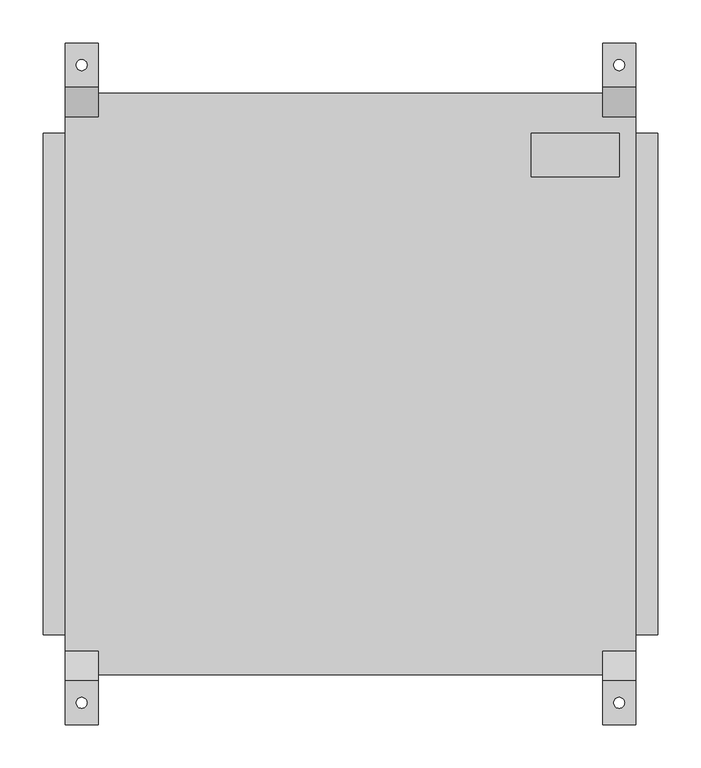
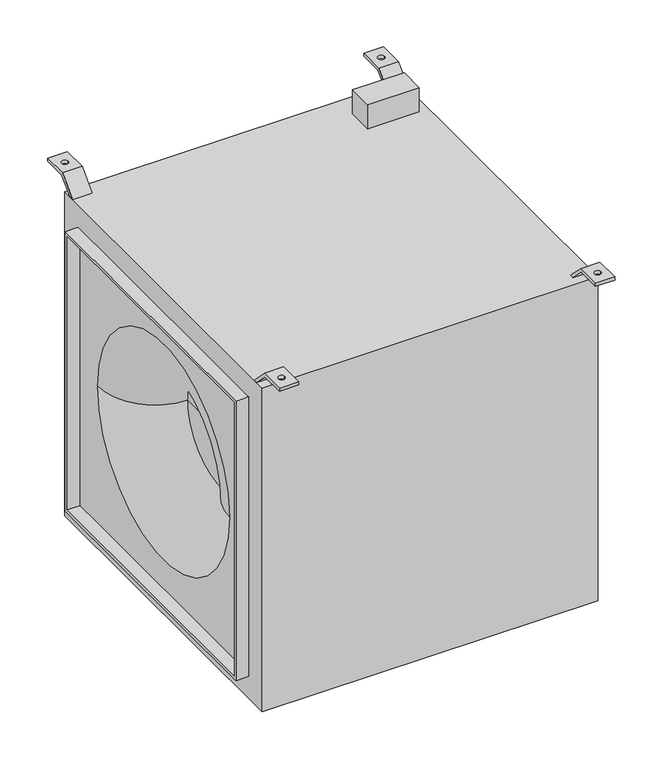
"""IFC4 building model written with IfcOpenShell, lengths in millimetres: proxy geometry, Fan-Exhaust-CaptiveAire-Centrifugal_Inline_Direct_Drive : SIDD-165."""

from ifc_helpers import new_model, si_unit, point, frame, origin, place, context, project, spatial, polyline, circle_curve, ellipse_curve, trimmed, outline, extrude, source, transform, mapped, element, save
from ifc_brep_helpers import plane_surface, revolved_surface, advanced_brep


def mechanical_equipment_4f591df0(model_context):
    return source(origin(), model_context, "Body", "SolidModel", [
        advanced_brep(
        [(330.2, -336.55, 673.1), (-330.2, -336.55, 673.1), (-330.2, -336.55, 0.0), (330.2, -336.55, 0.0), (330.2, 336.55, 673.1), (330.2, 336.55, 0.0), (-330.2, 336.55, 0.0), (-330.2, 336.55, 673.1), (-330.2, -224.3666667, 336.55), (-330.2, 224.3666667, 336.55), (-218.0166667, -112.1833333, 336.55), (-218.0166667, 0.0, 336.55), (-218.0166667, 112.1833333, 336.55)],
        [
            (0, 1),
            (1, 2),
            (2, 3),
            (3, 0),
            (4, 5),
            (5, 6),
            (6, 7),
            (7, 4),
            (0, 4),
            (7, 1),
            (6, 2),
            (8, 9, circle_curve(frame((-330.2, 0.0, 336.55), z_axis=(1.0, 0.0, 0.0), x_axis=(0.0, 1.0, 0.0)), 224.3666667)),
            (9, 8, circle_curve(frame((-330.2, 0.0, 336.55), z_axis=(1.0, 0.0, 0.0), x_axis=(0.0, 1.0, 0.0)), 224.3666667)),
            (5, 3),
            (10, 11),
            (11, 12),
            (12, 10, circle_curve(frame((-218.0166667, 0.0, 336.55), z_axis=(-1.0, 0.0, 0.0), x_axis=(0.0, 1.0, 0.0)), 112.1833333)),
            (10, 12, circle_curve(frame((-218.0166667, 0.0, 336.55), z_axis=(-1.0, 0.0, 0.0), x_axis=(0.0, 1.0, 0.0)), 112.1833333)),
            (12, 9, circle_curve(frame((-218.0166667, 224.3666667, 336.55), z_axis=(0.0, 0.0, -1.0), x_axis=(-1.0, 0.0, 0.0)), 112.1833333)),
            (8, 10, circle_curve(frame((-218.0166667, -224.3666667, 336.55), z_axis=(0.0, 0.0, -1.0), x_axis=(-1.0, 0.0, 0.0)), 112.1833333)),
        ],
        [
            plane_surface(frame((-330.2, -336.55, 673.1), z_axis=(0.0, -1.0, 0.0), x_axis=(-1.0, 0.0, 0.0))),
            plane_surface(frame((-330.2, 336.55, 673.1), z_axis=(0.0, 1.0, 0.0), x_axis=(1.0, 0.0, 0.0))),
            plane_surface(frame((330.2, -336.55, 673.1), z_axis=(0.0, 0.0, 1.0), x_axis=(0.0, 1.0, 0.0))),
            plane_surface(frame((-330.2, -336.55, 673.1), z_axis=(-1.0, 0.0, 0.0), x_axis=(0.0, 1.0, 0.0))),
            plane_surface(frame((-330.2, -336.55, 0.0), z_axis=(0.0, 0.0, -1.0), x_axis=(0.0, 1.0, 0.0))),
            plane_surface(frame((330.2, -336.55, 0.0), z_axis=(1.0, 0.0, 0.0), x_axis=(0.0, 1.0, 0.0))),
            plane_surface(frame((-218.0166667, 0.0, 336.55), z_axis=(-1.0, 0.0, 0.0), x_axis=(0.0, 1.0, 0.0))),
            revolved_surface(trimmed(ellipse_curve(frame((-218.0166667, 224.3666667, 336.55), z_axis=(0.0, 0.0, 1.0), x_axis=(-1.0, 0.0, 0.0)), 112.1833333, 112.1833333), [point((-330.2, 224.3666667, 336.55))], [point((-218.0166667, 112.1833333, 336.55))], True, "CARTESIAN"), (-194.6248862, 0.0, 336.55), (-1.0, 0.0, 0.0)),
        ],
        [
            (0, [[1, 2, 3, 4]]),
            (1, [[5, 6, 7, 8]]),
            (2, [[-1, 9, -8, 10]]),
            (3, [[-2, -10, -7, 11], [12, 13]]),
            (4, [[-3, -11, -6, 14]]),
            (5, [[-4, -14, -5, -9]]),
            (6, [[15, 16, 17]]),
            (6, [[-15, 18, -16]]),
            (7, [[-17, 19, -12, 20]]),
            (7, [[-18, -20, -13, -19]]),
        ],
    ),
        extrude(outline(polyline([(290.5125, 627.0625), (290.5125, 46.0375), (-290.5125, 46.0375), (-290.5125, 627.0625), (290.5125, 627.0625)]), holes=[polyline([(-284.1625, 52.3875), (284.1625, 52.3875), (284.1625, 620.7125), (-284.1625, 620.7125), (-284.1625, 52.3875)])]), frame((330.2, 0.0, 0.0), z_axis=(1.0, 0.0, 0.0), x_axis=(0.0, 1.0, 0.0)), (0.0, 0.0, 1.0), 25.4),
        extrude(outline(polyline([(-290.5125, 627.0625), (290.5125, 627.0625), (290.5125, 46.0375), (-290.5125, 46.0375), (-290.5125, 627.0625)]), holes=[polyline([(-284.1625, 620.7125), (-284.1625, 52.3875), (284.1625, 52.3875), (284.1625, 620.7125), (-284.1625, 620.7125)])]), frame((-355.6, 0.0, 0.0), z_axis=(1.0, 0.0, 0.0), x_axis=(0.0, 1.0, 0.0)), (0.0, 0.0, 1.0), 25.4),
        extrude(outline(polyline([(311.15, 239.7125), (209.55, 239.7125), (209.55, 290.5125), (311.15, 290.5125), (311.15, 239.7125)])), frame((0.0, 0.0, 673.1), z_axis=(0.0, 0.0, 1.0), x_axis=(1.0, 0.0, 0.0)), (0.0, 0.0, 1.0), 50.8),
        advanced_brep(
        [(-292.1, 343.69375, 708.025), (-292.1, 308.76875, 673.1), (-292.1, 317.7490061, 673.1), (-292.1, 346.3240061, 701.675), (-292.1, 394.49375, 701.675), (-292.1, 394.49375, 708.025), (-330.2, 343.69375, 708.025), (-330.2, 394.49375, 708.025), (-330.2, 394.49375, 701.675), (-330.2, 346.3240061, 701.675), (-330.2, 317.7490061, 673.1), (-330.2, 308.76875, 673.1), (-317.5, 369.09375, 701.675), (-304.8, 369.09375, 701.675), (-304.8, 369.09375, 708.025), (-317.5, 369.09375, 708.025)],
        [
            (0, 1),
            (1, 2),
            (2, 3),
            (3, 4),
            (4, 5),
            (5, 0),
            (6, 7),
            (7, 8),
            (8, 9),
            (9, 10),
            (10, 11),
            (11, 6),
            (0, 6),
            (11, 1),
            (10, 2),
            (9, 3),
            (8, 4),
            (12, 13, circle_curve(frame((-311.15, 369.09375, 701.675), z_axis=(0.0, 0.0, 1.0), x_axis=(-1.0, 0.0, 0.0)), 6.35)),
            (13, 12, circle_curve(frame((-311.15, 369.09375, 701.675), z_axis=(0.0, 0.0, 1.0), x_axis=(-1.0, 0.0, 0.0)), 6.35)),
            (7, 5),
            (14, 15, circle_curve(frame((-311.15, 369.09375, 708.025), z_axis=(0.0, 0.0, -1.0), x_axis=(-1.0, 0.0, 0.0)), 6.35)),
            (15, 14, circle_curve(frame((-311.15, 369.09375, 708.025), z_axis=(0.0, 0.0, -1.0), x_axis=(-1.0, 0.0, 0.0)), 6.35)),
            (14, 13),
            (12, 15),
        ],
        [
            plane_surface(frame((-292.1, 394.49375, 708.025), z_axis=(1.0, 0.0, 0.0), x_axis=(0.0, -1.0, 0.0))),
            plane_surface(frame((-330.2, 394.49375, 708.025), z_axis=(-1.0, 0.0, 0.0), x_axis=(0.0, 1.0, 0.0))),
            plane_surface(frame((-330.2, 308.76875, 673.1), z_axis=(0.0, -0.7071067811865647, 0.7071067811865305), x_axis=(1.0, 0.0, 0.0))),
            plane_surface(frame((-330.2, 317.7490061, 673.1), z_axis=(0.0, 0.0, -1.0), x_axis=(1.0, 0.0, 0.0))),
            plane_surface(frame((-330.2, 346.3240061, 701.675), z_axis=(0.0, 0.7071067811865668, -0.7071067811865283), x_axis=(1.0, 0.0, 0.0))),
            plane_surface(frame((-330.2, 394.49375, 701.675), z_axis=(0.0, 0.0, -1.0), x_axis=(1.0, 0.0, 0.0))),
            plane_surface(frame((-330.2, 394.49375, 708.025), z_axis=(0.0, 1.0, 0.0), x_axis=(1.0, 0.0, 0.0))),
            plane_surface(frame((-330.2, 343.69375, 708.025), z_axis=(0.0, 0.0, 1.0), x_axis=(1.0, 0.0, 0.0))),
            revolved_surface(polyline([(-317.5, 369.09375, 701.675), (-317.5, 369.09375, 708.025)]), (-311.15, 369.09375, 708.025), (0.0, 0.0, -1.0)),
        ],
        [
            (0, [[1, 2, 3, 4, 5, 6]]),
            (1, [[7, 8, 9, 10, 11, 12]]),
            (2, [[-1, 13, -12, 14]]),
            (3, [[-2, -14, -11, 15]]),
            (4, [[-3, -15, -10, 16]]),
            (5, [[-4, -16, -9, 17], [18, 19]]),
            (6, [[-5, -17, -8, 20]]),
            (7, [[-6, -20, -7, -13], [21, 22]]),
            (8, [[23, -18, 24, -21]]),
            (8, [[-23, -22, -24, -19]]),
        ],
    ),
        advanced_brep(
        [(-292.1, -343.69375, 708.025), (-292.1, -394.49375, 708.025), (-292.1, -394.49375, 701.675), (-292.1, -346.3240061, 701.675), (-292.1, -317.7490061, 673.1), (-292.1, -308.76875, 673.1), (-330.2, -343.69375, 708.025), (-330.2, -308.76875, 673.1), (-330.2, -317.7490061, 673.1), (-330.2, -346.3240061, 701.675), (-330.2, -394.49375, 701.675), (-330.2, -394.49375, 708.025), (-304.8, -369.09375, 708.025), (-317.5, -369.09375, 708.025), (-317.5, -369.09375, 701.675), (-304.8, -369.09375, 701.675)],
        [
            (0, 1),
            (1, 2),
            (2, 3),
            (3, 4),
            (4, 5),
            (5, 0),
            (6, 7),
            (7, 8),
            (8, 9),
            (9, 10),
            (10, 11),
            (11, 6),
            (0, 6),
            (11, 1),
            (12, 13, circle_curve(frame((-311.15, -369.09375, 708.025), z_axis=(0.0, 0.0, -1.0), x_axis=(-1.0, 0.0, 0.0)), 6.35)),
            (13, 12, circle_curve(frame((-311.15, -369.09375, 708.025), z_axis=(0.0, 0.0, -1.0), x_axis=(-1.0, 0.0, 0.0)), 6.35)),
            (10, 2),
            (9, 3),
            (14, 15, circle_curve(frame((-311.15, -369.09375, 701.675), z_axis=(0.0, 0.0, 1.0), x_axis=(-1.0, 0.0, 0.0)), 6.35)),
            (15, 14, circle_curve(frame((-311.15, -369.09375, 701.675), z_axis=(0.0, 0.0, 1.0), x_axis=(-1.0, 0.0, 0.0)), 6.35)),
            (8, 4),
            (7, 5),
            (12, 15),
            (14, 13),
        ],
        [
            plane_surface(frame((-292.1, 394.49375, 708.025), z_axis=(1.0, 0.0, 0.0), x_axis=(0.0, -1.0, 0.0))),
            plane_surface(frame((-330.2, 394.49375, 708.025), z_axis=(-1.0, 0.0, 0.0), x_axis=(0.0, 1.0, 0.0))),
            plane_surface(frame((-330.2, -394.49375, 708.025), z_axis=(0.0, 0.0, 1.0), x_axis=(1.0, 0.0, 0.0))),
            plane_surface(frame((-330.2, -394.49375, 701.675), z_axis=(0.0, -1.0, 0.0), x_axis=(1.0, 0.0, 0.0))),
            plane_surface(frame((-330.2, -346.3240061, 701.675), z_axis=(0.0, 0.0, -1.0), x_axis=(1.0, 0.0, 0.0))),
            plane_surface(frame((-330.2, -317.7490061, 673.1), z_axis=(0.0, -0.7071067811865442, -0.7071067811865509), x_axis=(1.0, 0.0, 0.0))),
            plane_surface(frame((-330.2, -308.76875, 673.1), z_axis=(0.0, 0.0, -1.0), x_axis=(1.0, 0.0, 0.0))),
            plane_surface(frame((-330.2, -343.69375, 708.025), z_axis=(0.0, 0.7071067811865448, 0.7071067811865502), x_axis=(1.0, 0.0, 0.0))),
            revolved_surface(polyline([(-317.5, -369.09375, 701.675), (-317.5, -369.09375, 708.025)]), (-311.15, -369.09375, 708.025), (0.0, 0.0, -1.0)),
        ],
        [
            (0, [[1, 2, 3, 4, 5, 6]]),
            (1, [[7, 8, 9, 10, 11, 12]]),
            (2, [[-1, 13, -12, 14], [15, 16]]),
            (3, [[-2, -14, -11, 17]]),
            (4, [[-3, -17, -10, 18], [19, 20]]),
            (5, [[-4, -18, -9, 21]]),
            (6, [[-5, -21, -8, 22]]),
            (7, [[-6, -22, -7, -13]]),
            (8, [[23, -19, 24, -15]]),
            (8, [[-23, -16, -24, -20]]),
        ],
    ),
        advanced_brep(
        [(292.1, 343.69375, 708.025), (292.1, 394.49375, 708.025), (292.1, 394.49375, 701.675), (292.1, 346.3240061, 701.675), (292.1, 317.7490061, 673.1), (292.1, 308.76875, 673.1), (330.2, 343.69375, 708.025), (330.2, 308.76875, 673.1), (330.2, 317.7490061, 673.1), (330.2, 346.3240061, 701.675), (330.2, 394.49375, 701.675), (330.2, 394.49375, 708.025), (304.8, 369.09375, 701.675), (317.5, 369.09375, 701.675), (317.5, 369.09375, 708.025), (304.8, 369.09375, 708.025)],
        [
            (0, 1),
            (1, 2),
            (2, 3),
            (3, 4),
            (4, 5),
            (5, 0),
            (6, 7),
            (7, 8),
            (8, 9),
            (9, 10),
            (10, 11),
            (11, 6),
            (5, 7),
            (6, 0),
            (4, 8),
            (3, 9),
            (2, 10),
            (12, 13, circle_curve(frame((311.15, 369.09375, 701.675), z_axis=(0.0, 0.0, 1.0), x_axis=(-1.0, 0.0, 0.0)), 6.35)),
            (13, 12, circle_curve(frame((311.15, 369.09375, 701.675), z_axis=(0.0, 0.0, 1.0), x_axis=(-1.0, 0.0, 0.0)), 6.35)),
            (1, 11),
            (14, 15, circle_curve(frame((311.15, 369.09375, 708.025), z_axis=(0.0, 0.0, -1.0), x_axis=(-1.0, 0.0, 0.0)), 6.35)),
            (15, 14, circle_curve(frame((311.15, 369.09375, 708.025), z_axis=(0.0, 0.0, -1.0), x_axis=(-1.0, 0.0, 0.0)), 6.35)),
            (14, 13),
            (12, 15),
        ],
        [
            plane_surface(frame((292.1, 343.69375, 708.025), z_axis=(-1.0000000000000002, 0.0, 0.0), x_axis=(0.0, 0.7071067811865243, 0.7071067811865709))),
            plane_surface(frame((330.2, 343.69375, 708.025), z_axis=(1.0000000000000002, 0.0, 0.0), x_axis=(0.0, -0.7071067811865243, -0.7071067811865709))),
            plane_surface(frame((330.2, 343.69375, 708.025), z_axis=(0.0, -0.7071067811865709, 0.7071067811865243), x_axis=(-1.0, 0.0, 0.0))),
            plane_surface(frame((330.2, 308.76875, 673.1), z_axis=(0.0, 0.0, -1.0), x_axis=(-1.0, 0.0, 0.0))),
            plane_surface(frame((330.2, 317.7490061, 673.1), z_axis=(0.0, 0.7071067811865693, -0.7071067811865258), x_axis=(-1.0, 0.0, 0.0))),
            plane_surface(frame((330.2, 346.3240061, 701.675), z_axis=(0.0, 0.0, -1.0), x_axis=(-1.0, 0.0, 0.0))),
            plane_surface(frame((330.2, 394.49375, 701.675), z_axis=(0.0, 1.0, 0.0), x_axis=(-1.0, 0.0, 0.0))),
            plane_surface(frame((330.2, 394.49375, 708.025), z_axis=(0.0, 0.0, 1.0), x_axis=(-1.0, 0.0, 0.0))),
            revolved_surface(polyline([(304.79999999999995, 369.09375, 701.675), (304.79999999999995, 369.09375, 708.025)]), (311.15, 369.09375, 708.025), (0.0, 0.0, -1.0)),
        ],
        [
            (0, [[1, 2, 3, 4, 5, 6]]),
            (1, [[7, 8, 9, 10, 11, 12]]),
            (2, [[-6, 13, -7, 14]]),
            (3, [[-5, 15, -8, -13]]),
            (4, [[-4, 16, -9, -15]]),
            (5, [[-3, 17, -10, -16], [18, 19]]),
            (6, [[-2, 20, -11, -17]]),
            (7, [[-1, -14, -12, -20], [21, 22]]),
            (8, [[23, -18, 24, -21]]),
            (8, [[-23, -22, -24, -19]]),
        ],
    ),
        advanced_brep(
        [(292.1, -343.69375, 708.025), (292.1, -308.76875, 673.1), (292.1, -317.7490061, 673.1), (292.1, -346.3240061, 701.675), (292.1, -394.49375, 701.675), (292.1, -394.49375, 708.025), (330.2, -343.69375, 708.025), (330.2, -394.49375, 708.025), (330.2, -394.49375, 701.675), (330.2, -346.3240061, 701.675), (330.2, -317.7490061, 673.1), (330.2, -308.76875, 673.1), (317.5, -369.09375, 708.025), (304.8, -369.09375, 708.025), (304.8, -369.09375, 701.675), (317.5, -369.09375, 701.675)],
        [
            (0, 1),
            (1, 2),
            (2, 3),
            (3, 4),
            (4, 5),
            (5, 0),
            (6, 7),
            (7, 8),
            (8, 9),
            (9, 10),
            (10, 11),
            (11, 6),
            (5, 7),
            (6, 0),
            (12, 13, circle_curve(frame((311.15, -369.09375, 708.025), z_axis=(0.0, 0.0, -1.0), x_axis=(-1.0, 0.0, 0.0)), 6.35)),
            (13, 12, circle_curve(frame((311.15, -369.09375, 708.025), z_axis=(0.0, 0.0, -1.0), x_axis=(-1.0, 0.0, 0.0)), 6.35)),
            (4, 8),
            (3, 9),
            (14, 15, circle_curve(frame((311.15, -369.09375, 701.675), z_axis=(0.0, 0.0, 1.0), x_axis=(-1.0, 0.0, 0.0)), 6.35)),
            (15, 14, circle_curve(frame((311.15, -369.09375, 701.675), z_axis=(0.0, 0.0, 1.0), x_axis=(-1.0, 0.0, 0.0)), 6.35)),
            (2, 10),
            (1, 11),
            (12, 15),
            (14, 13),
        ],
        [
            plane_surface(frame((292.1, 343.69375, 708.025), z_axis=(-1.0000000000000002, 0.0, 0.0), x_axis=(0.0, 0.7071067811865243, 0.7071067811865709))),
            plane_surface(frame((330.2, 343.69375, 708.025), z_axis=(1.0000000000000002, 0.0, 0.0), x_axis=(0.0, -0.7071067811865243, -0.7071067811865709))),
            plane_surface(frame((330.2, -343.69375, 708.025), z_axis=(0.0, 0.0, 1.0), x_axis=(-1.0, 0.0, 0.0))),
            plane_surface(frame((330.2, -394.49375, 708.025), z_axis=(0.0, -1.0, 0.0), x_axis=(-1.0, 0.0, 0.0))),
            plane_surface(frame((330.2, -394.49375, 701.675), z_axis=(0.0, 0.0, -1.0), x_axis=(-1.0, 0.0, 0.0))),
            plane_surface(frame((330.2, -346.3240061, 701.675), z_axis=(0.0, -0.7071067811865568, -0.7071067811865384), x_axis=(-1.0, 0.0, 0.0))),
            plane_surface(frame((330.2, -317.7490061, 673.1), z_axis=(0.0, 0.0, -1.0), x_axis=(-1.0, 0.0, 0.0))),
            plane_surface(frame((330.2, -308.76875, 673.1), z_axis=(0.0, 0.7071067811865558, 0.7071067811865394), x_axis=(-1.0, 0.0, 0.0))),
            revolved_surface(polyline([(304.79999999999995, -369.09375, 701.675), (304.79999999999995, -369.09375, 708.025)]), (311.15, -369.09375, 708.025), (0.0, 0.0, -1.0)),
        ],
        [
            (0, [[1, 2, 3, 4, 5, 6]]),
            (1, [[7, 8, 9, 10, 11, 12]]),
            (2, [[-6, 13, -7, 14], [15, 16]]),
            (3, [[-5, 17, -8, -13]]),
            (4, [[-4, 18, -9, -17], [19, 20]]),
            (5, [[-3, 21, -10, -18]]),
            (6, [[-2, 22, -11, -21]]),
            (7, [[-1, -14, -12, -22]]),
            (8, [[23, -19, 24, -15]]),
            (8, [[-23, -16, -24, -20]]),
        ],
    ),
    ])


if __name__ == "__main__":
    model = new_model("IFC4")
    model_context = context("Model", 3, world=origin())
    ifc_project = project(units=[si_unit("LENGTHUNIT", "METRE", prefix="MILLI")], contexts=[model_context])
    site = spatial("IfcSite", under=ifc_project)
    building = spatial("IfcBuilding", under=site)
    placement = place(None, origin())
    mechanical_equipment_shape = mechanical_equipment_4f591df0(model_context)
    element("IfcBuildingElementProxy", 1, Name="Fan-Exhaust-CaptiveAire-Centrifugal_Inline_Direct_Drive : SIDD-165", ObjectType="Fan-Exhaust-CaptiveAire-Centrifugal_Inline_Direct_Drive : SIDD-165", at=placement, inside=building, context=model_context, shape_type="MappedRepresentation", body=[
        mapped(mechanical_equipment_shape, transform((0.0, 0.0, 0.0), x_axis=(1.0, 0.0, 0.0), y_axis=(0.0, 1.0, 0.0), z_axis=(0.0, 0.0, 1.0))),
    ])
    save(model, "model.ifc")
